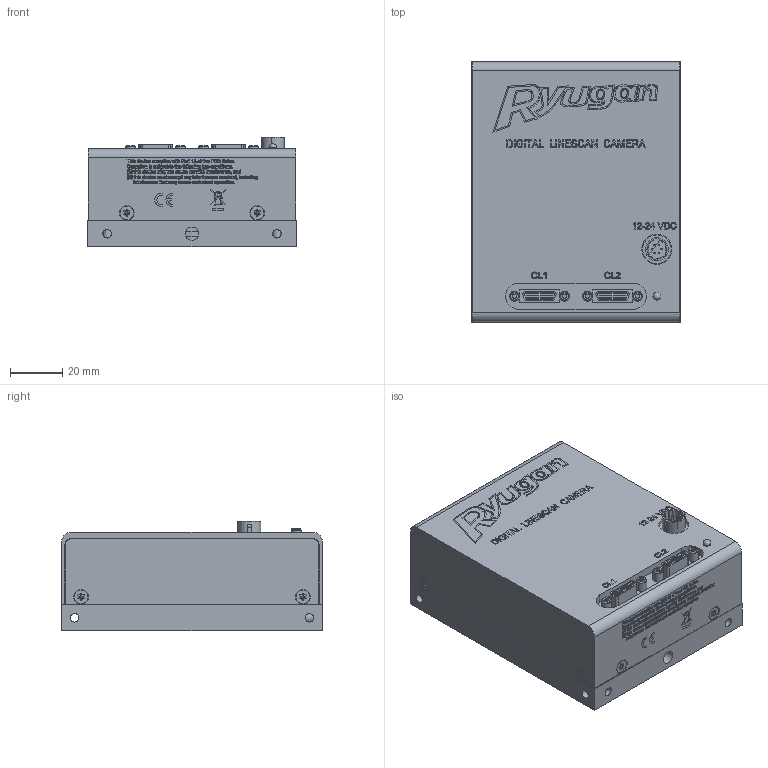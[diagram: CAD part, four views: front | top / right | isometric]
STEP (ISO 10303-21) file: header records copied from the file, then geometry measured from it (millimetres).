
FILE_DESCRIPTION (( 'STEP AP203' ), '1' );
FILE_NAME ('C7-1027-00-48／RMSL8K-100CL外形図.STEP', '2023-07-21T05:57:38', ( '' ), ( '' ), 'SwSTEP 2.0', 'SolidWorks 2020', '' );
FILE_SCHEMA (( 'CONFIG_CONTROL_DESIGN' ));
Products named in the file (1): C7-1027-00-48／RMSL8K-100CL外形図
Bounding box: 80 x 100 x 42 mm (x, y, z)
Surface area: 38881 mm2 (no closed solid volume)
Topology: 0 solids, 376 shells, 1228 faces, 10514 edges, 9601 vertices
Faces by surface type: plane 963, cylinder 170, bspline 77, cone 17, sphere 1
Full cylindrical faces by diameter (mm): 0.5 x6, 0.8 x1, 1 x8, 1.6 x4, 2 x4, 3 x1, 3.3 x12, 3.8 x4, 5.105 x1, 8.85 x1, 11.5 x1, 72 x1, 74 x1
Entity records: 142835 total; most frequent: CARTESIAN_POINT 77068, ORIENTED_EDGE 12043, EDGE_CURVE 10436, VERTEX_POINT 9583, DIRECTION 9193, LINE 5863, VECTOR 5863, B_SPLINE_CURVE_WITH_KNOTS 4048
